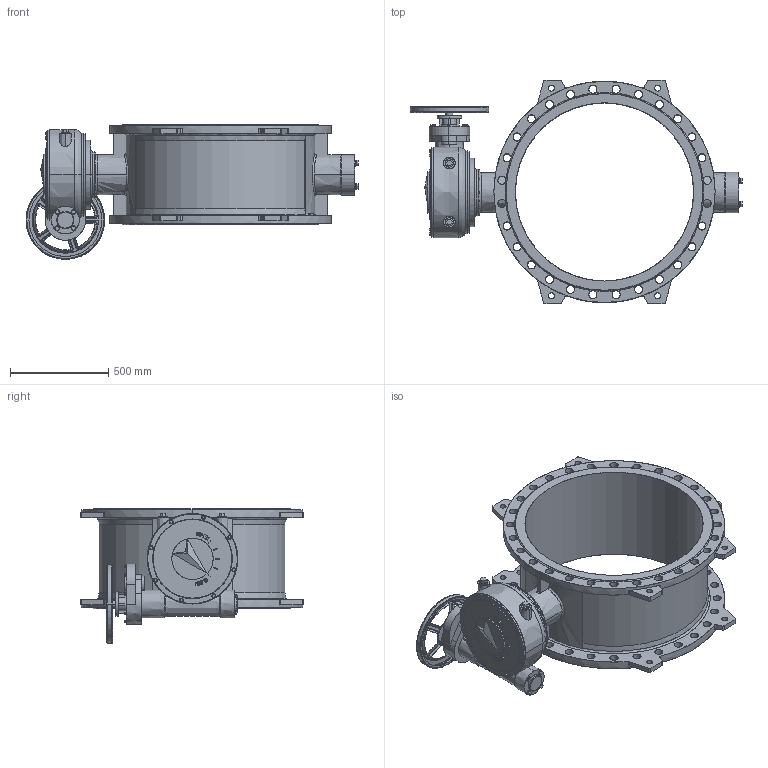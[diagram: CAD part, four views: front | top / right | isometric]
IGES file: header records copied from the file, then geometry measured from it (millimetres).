
Start section: SolidWorks IGES file using analytic representation for surfaces
Global section: file name: F:\2014年工作\泰科菲三维模型资料\DN900 PN16\DN900 PN16.IGS; native system: SolidWorks 2012; preprocessor: SolidWorks 2012; author: Administrator; date: 140926.092909; units: millimetre
Bounding box: 1688.1 x 1135 x 685 mm (x, y, z)
Surface area: 6313839.4 mm2 (no closed solid volume)
Topology: 0 solids, 0 shells, 1214 faces, 22649 edges, 22637 vertices
Faces by surface type: bspline 836, revolution 378
